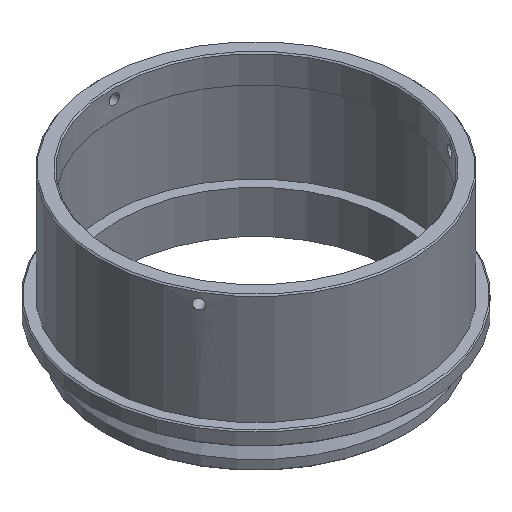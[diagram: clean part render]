
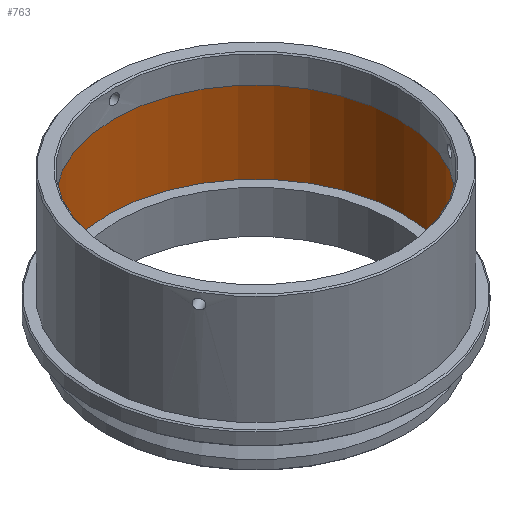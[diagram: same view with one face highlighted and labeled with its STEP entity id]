
A CAD part, isometric view. The second image highlights one B-rep face of the part: STEP entity #763.
In plain terms, the highlighted cylindrical face has radius 36.5 mm (diameter 73 mm), a full revolution.
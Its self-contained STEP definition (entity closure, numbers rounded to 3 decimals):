
#14 = AXIS2_PLACEMENT_3D ( 'NONE', #211, #481, #346 ) ;
#30 = ORIENTED_EDGE ( 'NONE', *, *, #596, .T. ) ;
#62 = CARTESIAN_POINT ( 'NONE',  ( 0., 0., -7. ) ) ;
#151 = CIRCLE ( 'NONE', #601, 36.5 ) ;
#191 = AXIS2_PLACEMENT_3D ( 'NONE', #365, #369, #826 ) ;
#211 = CARTESIAN_POINT ( 'NONE',  ( 0., 0., 0. ) ) ;
#230 = CARTESIAN_POINT ( 'NONE',  ( 36.5, 0., -28.2 ) ) ;
#255 = ORIENTED_EDGE ( 'NONE', *, *, #514, .F. ) ;
#302 = CARTESIAN_POINT ( 'NONE',  ( 36.5, 0., -7. ) ) ;
#346 = DIRECTION ( 'NONE',  ( 1., 0., 0. ) ) ;
#365 = CARTESIAN_POINT ( 'NONE',  ( 0., 0., -28.2 ) ) ;
#369 = DIRECTION ( 'NONE',  ( 0., 0., 1. ) ) ;
#421 = EDGE_LOOP ( 'NONE', ( #255 ) ) ;
#441 = CYLINDRICAL_SURFACE ( 'NONE', #14, 36.5 ) ;
#447 = DIRECTION ( 'NONE',  ( 1., 0., 0. ) ) ;
#452 = DIRECTION ( 'NONE',  ( 0., 0., 1. ) ) ;
#453 = VERTEX_POINT ( 'NONE', #230 ) ;
#481 = DIRECTION ( 'NONE',  ( 0., 0., 1. ) ) ;
#485 = FACE_OUTER_BOUND ( 'NONE', #696, .T. ) ;
#514 = EDGE_CURVE ( 'NONE', #453, #453, #665, .T. ) ;
#596 = EDGE_CURVE ( 'NONE', #700, #700, #151, .T. ) ;
#601 = AXIS2_PLACEMENT_3D ( 'NONE', #62, #452, #447 ) ;
#633 = FACE_OUTER_BOUND ( 'NONE', #421, .T. ) ;
#665 = CIRCLE ( 'NONE', #191, 36.5 ) ;
#696 = EDGE_LOOP ( 'NONE', ( #30 ) ) ;
#700 = VERTEX_POINT ( 'NONE', #302 ) ;
#763 = ADVANCED_FACE ( 'NONE', ( #633, #485 ), #441, .F. ) ;
#826 = DIRECTION ( 'NONE',  ( 1., 0., 0. ) ) ;
